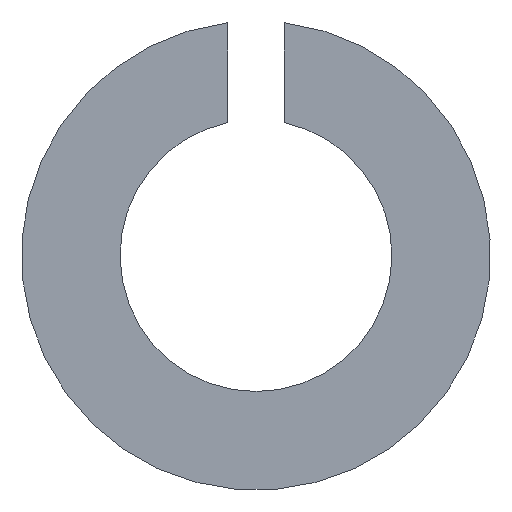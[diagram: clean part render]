
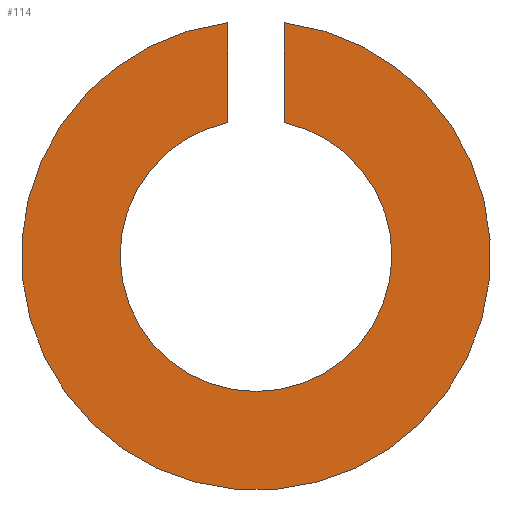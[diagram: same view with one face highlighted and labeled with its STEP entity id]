
A CAD part, left-side view. The second image highlights one B-rep face of the part: STEP entity #114.
In plain terms, the highlighted planar face has unit normal (-1, 0, 0).
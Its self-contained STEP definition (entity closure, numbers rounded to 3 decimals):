
#4 = DIRECTION ( 'NONE',  ( 0., 1., 0. ) ) ;
#31 = VERTEX_POINT ( 'NONE', #160 ) ;
#40 = CARTESIAN_POINT ( 'NONE',  ( -54.3, -15.5, 45.5 ) ) ;
#50 = DIRECTION ( 'NONE',  ( -1., 0., 0. ) ) ;
#53 = DIRECTION ( 'NONE',  ( 0., 0., 1. ) ) ;
#65 = VECTOR ( 'NONE', #146, 1000. ) ;
#68 = LINE ( 'NONE', #110, #65 ) ;
#81 = ORIENTED_EDGE ( 'NONE', *, *, #103, .T. ) ;
#83 = EDGE_CURVE ( 'NONE', #194, #239, #164, .T. ) ;
#87 = LINE ( 'NONE', #147, #91 ) ;
#88 = VERTEX_POINT ( 'NONE', #197 ) ;
#91 = VECTOR ( 'NONE', #130, 1000. ) ;
#100 = CARTESIAN_POINT ( 'NONE',  ( -54.3, -16.033, 47.994 ) ) ;
#103 = EDGE_CURVE ( 'NONE', #239, #88, #68, .T. ) ;
#110 = CARTESIAN_POINT ( 'NONE',  ( -54.3, -14.967, 45.5 ) ) ;
#111 = CARTESIAN_POINT ( 'NONE',  ( -54.3, -14.967, 47.994 ) ) ;
#114 = ADVANCED_FACE ( 'NONE', ( #129 ), #199, .T. ) ;
#117 = EDGE_LOOP ( 'NONE', ( #81, #150, #237, #221 ) ) ;
#125 = AXIS2_PLACEMENT_3D ( 'NONE', #40, #168, #4 ) ;
#126 = EDGE_CURVE ( 'NONE', #31, #194, #87, .T. ) ;
#127 = CARTESIAN_POINT ( 'NONE',  ( -54.3, -15.5, 45.5 ) ) ;
#129 = FACE_OUTER_BOUND ( 'NONE', #117, .T. ) ;
#130 = DIRECTION ( 'NONE',  ( 0., 0., -1. ) ) ;
#146 = DIRECTION ( 'NONE',  ( 0., 0., 1. ) ) ;
#147 = CARTESIAN_POINT ( 'NONE',  ( -54.3, -16.033, 45.5 ) ) ;
#149 = DIRECTION ( 'NONE',  ( 1., 0., 0. ) ) ;
#150 = ORIENTED_EDGE ( 'NONE', *, *, #161, .F. ) ;
#160 = CARTESIAN_POINT ( 'NONE',  ( -54.3, -16.033, 49.868 ) ) ;
#161 = EDGE_CURVE ( 'NONE', #31, #88, #231, .T. ) ;
#162 = CARTESIAN_POINT ( 'NONE',  ( -54.3, -12.025, 45.5 ) ) ;
#164 = CIRCLE ( 'NONE', #173, 2.55 ) ;
#168 = DIRECTION ( 'NONE',  ( 1., 0., 0. ) ) ;
#173 = AXIS2_PLACEMENT_3D ( 'NONE', #127, #149, #222 ) ;
#183 = AXIS2_PLACEMENT_3D ( 'NONE', #162, #50, #53 ) ;
#194 = VERTEX_POINT ( 'NONE', #100 ) ;
#197 = CARTESIAN_POINT ( 'NONE',  ( -54.3, -14.967, 49.868 ) ) ;
#199 = PLANE ( 'NONE',  #183 ) ;
#221 = ORIENTED_EDGE ( 'NONE', *, *, #83, .T. ) ;
#222 = DIRECTION ( 'NONE',  ( 0., 1., 0. ) ) ;
#231 = CIRCLE ( 'NONE', #125, 4.4 ) ;
#237 = ORIENTED_EDGE ( 'NONE', *, *, #126, .T. ) ;
#239 = VERTEX_POINT ( 'NONE', #111 ) ;
